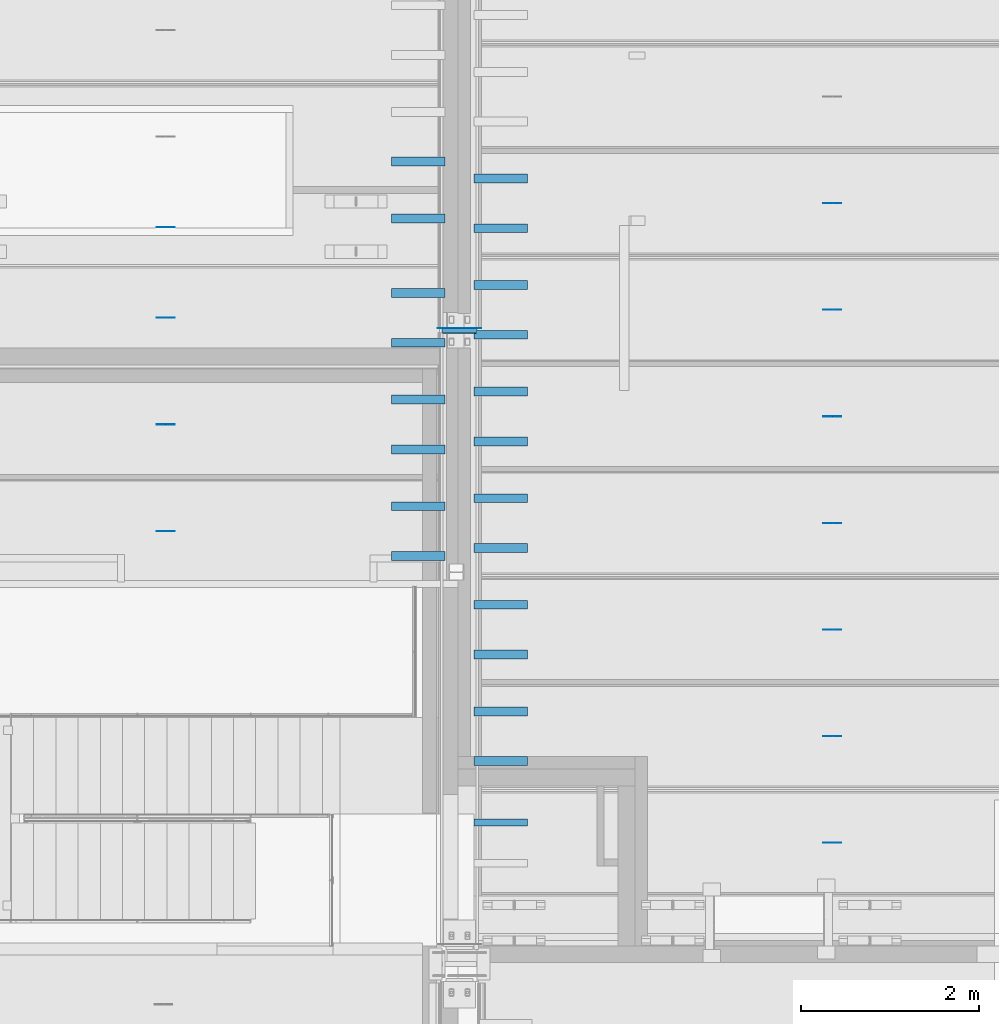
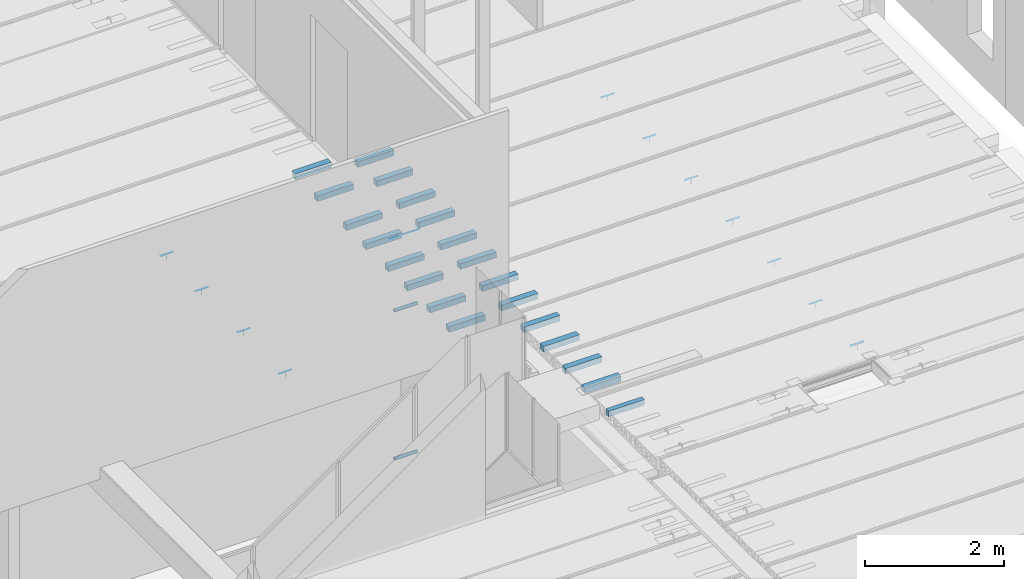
# One storey, part 19 of 230: 49 beams.
"""IFC4X3_ADD2 building model written with IfcOpenShell, lengths in millimetres."""

from ifc_helpers import new_model, si_unit, direction, frame, frame_2d, origin_with_axes, place, context, subcontext, project, spatial, rectangle, hollow_circle, extrude, material, element, save


model = new_model("IFC4X3_ADD2")

# Units and contexts
model_context = context("Model", 3, precision=1e-05, world=origin_with_axes(), true_north=direction((0.0, 1.0)))
body_context = subcontext(model_context, "Body", "Model", "MODEL_VIEW")
ifc_project = project(units=[si_unit("LENGTHUNIT", "METRE", prefix="MILLI"), si_unit("AREAUNIT", "SQUARE_METRE"), si_unit("VOLUMEUNIT", "CUBIC_METRE"), si_unit("PLANEANGLEUNIT", "RADIAN"), si_unit("TIMEUNIT", "SECOND"), si_unit("MASSUNIT", "GRAM")], contexts=[model_context])

# Site, building, storey
site_placement = place(None, origin_with_axes())
site = spatial("IfcSite", under=ifc_project, at=site_placement, Name="Site", CompositionType="ELEMENT")
building_placement = place(site_placement, origin_with_axes())
building = spatial("IfcBuilding", under=site, at=building_placement, Name="IFC Building Story")
storey_placement = place(building_placement, origin_with_axes())
storey = spatial("IfcBuildingStorey", under=building, at=storey_placement, Name="ETAGE 00 (0)", Elevation=0.0)

# Beams
ifc_material_1 = material(Name="STEEL/Accessory_invisible")
for number, where, z_axis, x_axis, name in (
    (1, (40731.189, 7840.0, 4150.0), (-1.0, 0.0, 0.0), (0.0, 1.0, 0.0), "ES7"),
    (2, (40731.189, 7280.0, 4150.0), (-1.0, 0.0, 0.0), (0.0, 1.0, 0.0), "ES7"),
):
    element("IfcBeam", number, at=place(storey_placement, frame(where, z_axis=z_axis, x_axis=x_axis)), inside=storey, material=ifc_material_1, Name=name, ObjectType="100*100", context=body_context, shape_type="SweptSolid", body=[
        extrude(rectangle(XDim=100.0, YDim=99.99999999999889, at=frame_2d((0.0, 5.95523630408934e-12), x_axis=(1.0, 0.0))), origin_with_axes(), (0.0, 0.0, 1.0), 600.0),
    ])
ifc_material_2 = material(Name="STEEL/Accessory_invisible 261")
beam_1_placement = place(storey_placement, frame((44164.189, 7560.0, 4049.9999909), z_axis=(-1.0, 0.0, 0.0), x_axis=(0.0, 0.0, -1.0)))
element("IfcBeam", 3, at=beam_1_placement, inside=storey, material=ifc_material_2, Name="ES6", ObjectType="1*1 2", context=body_context, shape_type="SweptSolid", body=[
    extrude(rectangle(XDim=100.0, YDim=0.9999999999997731, at=frame_2d((0.0, 5.95523630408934e-12), x_axis=(1.0, 0.0))), origin_with_axes(), (0.0, 0.0, 1.0), 1.0),
])
beam_2_placement = place(storey_placement, frame((44263.689, 7560.0, 4100.0), z_axis=(-1.0, 0.0, 0.0), x_axis=(0.0, 1.0, 0.0)))
element("IfcBeam", 4, at=beam_2_placement, inside=storey, material=ifc_material_2, Name="ES31", ObjectType="1*1 3", context=body_context, shape_type="SweptSolid", body=[
    extrude(rectangle(XDim=0.9999999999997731, YDim=0.9999999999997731, at=frame_2d((0.0, 5.95523630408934e-12), x_axis=(1.0, 0.0))), origin_with_axes(), (0.0, 0.0, 1.0), 199.9999999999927),
])
for number, where, z_axis, x_axis, name in (
    (5, (40731.189, 6640.0, 4150.0), (-1.0, 0.0, 0.0), (0.0, 1.0, 0.0), "ES7"),
    (6, (40731.189, 6080.0, 4150.0), (-1.0, 0.0, 0.0), (0.0, 1.0, 0.0), "ES7"),
):
    element("IfcBeam", number, at=place(storey_placement, frame(where, z_axis=z_axis, x_axis=x_axis)), inside=storey, material=ifc_material_1, Name=name, ObjectType="100*100", context=body_context, shape_type="SweptSolid", body=[
        extrude(rectangle(XDim=100.0, YDim=99.99999999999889, at=frame_2d((0.0, 5.95523630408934e-12), x_axis=(1.0, 0.0))), origin_with_axes(), (0.0, 0.0, 1.0), 600.0),
    ])
beam_3_placement = place(storey_placement, frame((44164.189, 6360.0, 4049.9999909), z_axis=(-1.0, 0.0, 0.0), x_axis=(0.0, 0.0, -1.0)))
element("IfcBeam", 7, at=beam_3_placement, inside=storey, material=ifc_material_2, Name="ES6", ObjectType="1*1 2", context=body_context, shape_type="SweptSolid", body=[
    extrude(rectangle(XDim=100.0, YDim=0.9999999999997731, at=frame_2d((0.0, 5.95523630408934e-12), x_axis=(1.0, 0.0))), origin_with_axes(), (0.0, 0.0, 1.0), 1.0),
])
beam_4_placement = place(storey_placement, frame((44263.689, 6360.0, 4100.0), z_axis=(-1.0, 0.0, 0.0), x_axis=(0.0, 1.0, 0.0)))
element("IfcBeam", 8, at=beam_4_placement, inside=storey, material=ifc_material_2, Name="ES31", ObjectType="1*1 3", context=body_context, shape_type="SweptSolid", body=[
    extrude(rectangle(XDim=0.9999999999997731, YDim=0.9999999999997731, at=frame_2d((0.0, 5.95523630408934e-12), x_axis=(1.0, 0.0))), origin_with_axes(), (0.0, 0.0, 1.0), 199.9999999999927),
])
for number, where, z_axis, x_axis, name in (
    (9, (40731.189, 5440.0, 4150.0), (-1.0, 0.0, 0.0), (0.0, 1.0, 0.0), "ES7"),
    (10, (40731.189, 4880.0, 4150.0), (-1.0, 0.0, 0.0), (0.0, 1.0, 0.0), "ES7"),
):
    element("IfcBeam", number, at=place(storey_placement, frame(where, z_axis=z_axis, x_axis=x_axis)), inside=storey, material=ifc_material_1, Name=name, ObjectType="100*100", context=body_context, shape_type="SweptSolid", body=[
        extrude(rectangle(XDim=100.0, YDim=99.99999999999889, at=frame_2d((0.0, 5.95523630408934e-12), x_axis=(1.0, 0.0))), origin_with_axes(), (0.0, 0.0, 1.0), 600.0),
    ])
beam_5_placement = place(storey_placement, frame((44164.189, 5160.0, 4049.9999909), z_axis=(-1.0, 0.0, 0.0), x_axis=(0.0, 0.0, -1.0)))
element("IfcBeam", 11, at=beam_5_placement, inside=storey, material=ifc_material_2, Name="ES6", ObjectType="1*1 2", context=body_context, shape_type="SweptSolid", body=[
    extrude(rectangle(XDim=100.0, YDim=0.9999999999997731, at=frame_2d((0.0, 5.95523630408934e-12), x_axis=(1.0, 0.0))), origin_with_axes(), (0.0, 0.0, 1.0), 1.0),
])
beam_6_placement = place(storey_placement, frame((44263.689, 5160.0, 4100.0), z_axis=(-1.0, 0.0, 0.0), x_axis=(0.0, 1.0, 0.0)))
element("IfcBeam", 12, at=beam_6_placement, inside=storey, material=ifc_material_2, Name="ES31", ObjectType="1*1 3", context=body_context, shape_type="SweptSolid", body=[
    extrude(rectangle(XDim=0.9999999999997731, YDim=0.9999999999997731, at=frame_2d((0.0, 5.95523630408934e-12), x_axis=(1.0, 0.0))), origin_with_axes(), (0.0, 0.0, 1.0), 199.9999999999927),
])
for number, where, z_axis, x_axis, name in (
    (13, (40731.189, 4240.0, 4150.0), (-1.0, 0.0, 0.0), (0.0, 1.0, 0.0), "ES7"),
    (14, (40731.189, 3680.0, 4150.0), (-1.0, 0.0, 0.0), (0.0, 1.0, 0.0), "ES7"),
):
    element("IfcBeam", number, at=place(storey_placement, frame(where, z_axis=z_axis, x_axis=x_axis)), inside=storey, material=ifc_material_1, Name=name, ObjectType="100*100", context=body_context, shape_type="SweptSolid", body=[
        extrude(rectangle(XDim=100.0, YDim=99.99999999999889, at=frame_2d((0.0, 5.95523630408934e-12), x_axis=(1.0, 0.0))), origin_with_axes(), (0.0, 0.0, 1.0), 600.0),
    ])
beam_7_placement = place(storey_placement, frame((44164.189, 3960.0, 4049.9999909), z_axis=(-1.0, 0.0, 0.0), x_axis=(0.0, 0.0, -1.0)))
element("IfcBeam", 15, at=beam_7_placement, inside=storey, material=ifc_material_2, Name="ES6", ObjectType="1*1 2", context=body_context, shape_type="SweptSolid", body=[
    extrude(rectangle(XDim=100.0, YDim=0.9999999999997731, at=frame_2d((0.0, 5.95523630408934e-12), x_axis=(1.0, 0.0))), origin_with_axes(), (0.0, 0.0, 1.0), 1.0),
])
beam_8_placement = place(storey_placement, frame((44263.689, 3960.0, 4100.0), z_axis=(-1.0, 0.0, 0.0), x_axis=(0.0, 1.0, 0.0)))
element("IfcBeam", 16, at=beam_8_placement, inside=storey, material=ifc_material_2, Name="ES31", ObjectType="1*1 3", context=body_context, shape_type="SweptSolid", body=[
    extrude(rectangle(XDim=0.9999999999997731, YDim=0.9999999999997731, at=frame_2d((0.0, 5.95523630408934e-12), x_axis=(1.0, 0.0))), origin_with_axes(), (0.0, 0.0, 1.0), 199.9999999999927),
])
for number, where, z_axis, x_axis, name in (
    (17, (40731.189, 3040.0, 4150.0), (-1.0, 0.0, 0.0), (0.0, 1.0, 0.0), "ES7"),
    (18, (40731.189, 2480.0, 4150.0), (-1.0, 0.0, 0.0), (0.0, 1.0, 0.0), "ES7"),
):
    element("IfcBeam", number, at=place(storey_placement, frame(where, z_axis=z_axis, x_axis=x_axis)), inside=storey, material=ifc_material_1, Name=name, ObjectType="100*100", context=body_context, shape_type="SweptSolid", body=[
        extrude(rectangle(XDim=100.0, YDim=99.99999999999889, at=frame_2d((0.0, 5.95523630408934e-12), x_axis=(1.0, 0.0))), origin_with_axes(), (0.0, 0.0, 1.0), 600.0),
    ])
beam_9_placement = place(storey_placement, frame((44164.189, 2760.0, 4049.9999909), z_axis=(-1.0, 0.0, 0.0), x_axis=(0.0, 0.0, -1.0)))
element("IfcBeam", 19, at=beam_9_placement, inside=storey, material=ifc_material_2, Name="ES6", ObjectType="1*1 2", context=body_context, shape_type="SweptSolid", body=[
    extrude(rectangle(XDim=100.0, YDim=0.9999999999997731, at=frame_2d((0.0, 5.95523630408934e-12), x_axis=(1.0, 0.0))), origin_with_axes(), (0.0, 0.0, 1.0), 1.0),
])
beam_10_placement = place(storey_placement, frame((44263.689, 2760.0, 4100.0), z_axis=(-1.0, 0.0, 0.0), x_axis=(0.0, 1.0, 0.0)))
element("IfcBeam", 20, at=beam_10_placement, inside=storey, material=ifc_material_2, Name="ES31", ObjectType="1*1 3", context=body_context, shape_type="SweptSolid", body=[
    extrude(rectangle(XDim=0.9999999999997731, YDim=0.9999999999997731, at=frame_2d((0.0, 5.95523630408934e-12), x_axis=(1.0, 0.0))), origin_with_axes(), (0.0, 0.0, 1.0), 199.9999999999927),
])
beam_11_placement = place(storey_placement, frame((40731.189, 1790.0, 4150.0), z_axis=(-1.0, 0.0, 0.0), x_axis=(0.0, 0.0, 1.0)))
element("IfcBeam", 21, at=beam_11_placement, inside=storey, material=ifc_material_1, Name="ES7", ObjectType="100*80", context=body_context, shape_type="SweptSolid", body=[
    extrude(rectangle(XDim=100.0, YDim=80.0, at=frame_2d((0.0, 5.95523630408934e-12), x_axis=(1.0, 0.0))), origin_with_axes(), (0.0, 0.0, 1.0), 600.0),
])
beam_12_placement = place(storey_placement, frame((44163.939, 1560.0, 4049.9999909), z_axis=(-1.0, 0.0, 0.0), x_axis=(0.0, 0.0, -1.0)))
element("IfcBeam", 22, at=beam_12_placement, inside=storey, material=ifc_material_2, Name="ES6", ObjectType="1*1 2", context=body_context, shape_type="SweptSolid", body=[
    extrude(rectangle(XDim=100.0, YDim=0.9999999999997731, at=frame_2d((0.0, 5.95523630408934e-12), x_axis=(1.0, 0.0))), origin_with_axes(), (0.0, 0.0, 1.0), 1.0),
])
for number, where, z_axis, x_axis, name in (
    (23, (44263.439, 1560.0, 4100.0), (-1.0, 0.0, 0.0), (0.0, 1.0, 0.0), "ES31"),
    (24, (44263.439, 1560.0, 4090.0), (-1.0, 0.0, 0.0), (0.0, 1.0, 0.0), "ES31"),
):
    element("IfcBeam", number, at=place(storey_placement, frame(where, z_axis=z_axis, x_axis=x_axis)), inside=storey, material=ifc_material_2, Name=name, ObjectType="1*1 3", context=body_context, shape_type="SweptSolid", body=[
        extrude(rectangle(XDim=0.9999999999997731, YDim=0.9999999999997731, at=frame_2d((0.0, 5.95523630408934e-12), x_axis=(1.0, 0.0))), origin_with_axes(), (0.0, 0.0, 1.0), 200.0),
    ])
for number, where, z_axis, x_axis, name in (
    (25, (40731.189, 9040.0, 4150.0), (-1.0, 0.0, 0.0), (0.0, 1.0, 0.0), "ES7"),
    (26, (40731.189, 8480.0, 4150.0), (-1.0, 0.0, 0.0), (0.0, 1.0, 0.0), "ES7"),
):
    element("IfcBeam", number, at=place(storey_placement, frame(where, z_axis=z_axis, x_axis=x_axis)), inside=storey, material=ifc_material_1, Name=name, ObjectType="100*100", context=body_context, shape_type="SweptSolid", body=[
        extrude(rectangle(XDim=100.0, YDim=99.99999999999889, at=frame_2d((0.0, 5.95523630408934e-12), x_axis=(1.0, 0.0))), origin_with_axes(), (0.0, 0.0, 1.0), 600.0),
    ])
beam_13_placement = place(storey_placement, frame((44164.189, 8760.0, 4049.9999909), z_axis=(-1.0, 0.0, 0.0), x_axis=(0.0, 0.0, -1.0)))
element("IfcBeam", 27, at=beam_13_placement, inside=storey, material=ifc_material_2, Name="ES6", ObjectType="1*1 2", context=body_context, shape_type="SweptSolid", body=[
    extrude(rectangle(XDim=100.0, YDim=0.9999999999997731, at=frame_2d((0.0, 5.95523630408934e-12), x_axis=(1.0, 0.0))), origin_with_axes(), (0.0, 0.0, 1.0), 1.0),
])
beam_14_placement = place(storey_placement, frame((44263.689, 8760.0, 4100.0), z_axis=(-1.0, 0.0, 0.0), x_axis=(0.0, 1.0, 0.0)))
element("IfcBeam", 28, at=beam_14_placement, inside=storey, material=ifc_material_2, Name="ES31", ObjectType="1*1 3", context=body_context, shape_type="SweptSolid", body=[
    extrude(rectangle(XDim=0.9999999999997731, YDim=0.9999999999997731, at=frame_2d((0.0, 5.95523630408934e-12), x_axis=(1.0, 0.0))), origin_with_axes(), (0.0, 0.0, 1.0), 199.9999999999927),
])
ifc_material_3 = material(Name="STEEL/Accessory_PVC")
for number, where, z_axis, x_axis, name in (
    (29, (39774.1889999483, 7324.838, 110.0), (1.0, 0.0, 0.0), (0.0, 0.0, -1.0), "PS13"),
    (30, (39774.1890000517, 7324.838, 2720.0), (1.0, 0.0, 0.0), (0.0, 0.0, -1.0), "PS13"),
):
    element("IfcBeam", number, at=place(storey_placement, frame(where, z_axis=z_axis, x_axis=x_axis)), inside=storey, material=ifc_material_3, Name=name, ObjectType="O56*3", context=body_context, shape_type="SweptSolid", body=[
        extrude(hollow_circle(Radius=28.0, WallThickness=3.0, at=frame_2d((0.0, 5.95523630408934e-12), x_axis=(1.0, 0.0))), origin_with_axes(), (0.0, 0.0, 1.0), 384.0),
    ])
for number, where, z_axis, x_axis, name in (
    (31, (39801.189, 9230.000915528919, 4150.0), (-1.0, 0.0, 0.0), (0.0, -1.0, 0.0), "ES7"),
    (32, (39801.189, 7750.000915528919, 4150.0), (-1.0, 0.0, 0.0), (0.0, -1.0, 0.0), "ES7"),
    (33, (39801.189, 7190.000915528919, 4150.0), (-1.0, 0.0, 0.0), (0.0, -1.0, 0.0), "ES7"),
):
    element("IfcBeam", number, at=place(storey_placement, frame(where, z_axis=z_axis, x_axis=x_axis)), inside=storey, material=ifc_material_1, Name=name, ObjectType="100*100", context=body_context, shape_type="SweptSolid", body=[
        extrude(rectangle(XDim=100.0, YDim=99.99999999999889, at=frame_2d((0.0, 5.95523630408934e-12), x_axis=(1.0, 0.0))), origin_with_axes(), (0.0, 0.0, 1.0), 600.0),
    ])
beam_15_placement = place(storey_placement, frame((36659.189, 7470.000915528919, 4049.9999909), z_axis=(-1.0, 0.0, 0.0), x_axis=(0.0, 0.0, -1.0)))
element("IfcBeam", 34, at=beam_15_placement, inside=storey, material=ifc_material_2, Name="ES6", ObjectType="1*1 2", context=body_context, shape_type="SweptSolid", body=[
    extrude(rectangle(XDim=100.0, YDim=0.9999999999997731, at=frame_2d((0.0, 5.95523630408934e-12), x_axis=(1.0, 0.0))), origin_with_axes(), (0.0, 0.0, 1.0), 1.0),
])
beam_16_placement = place(storey_placement, frame((36758.689, 7470.000915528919, 4100.0), z_axis=(-1.0, 0.0, 0.0), x_axis=(0.0, 1.0, 0.0)))
element("IfcBeam", 35, at=beam_16_placement, inside=storey, material=ifc_material_2, Name="ES31", ObjectType="1*1 3", context=body_context, shape_type="SweptSolid", body=[
    extrude(rectangle(XDim=0.9999999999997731, YDim=0.9999999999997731, at=frame_2d((0.0, 5.95523630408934e-12), x_axis=(1.0, 0.0))), origin_with_axes(), (0.0, 0.0, 1.0), 200.0),
])
for number, where, z_axis, x_axis, name in (
    (36, (39801.189, 6550.000915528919, 4150.0), (-1.0, 0.0, 0.0), (0.0, -1.0, 0.0), "ES7"),
    (37, (39801.189, 5990.000915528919, 4150.0), (-1.0, 0.0, 0.0), (0.0, -1.0, 0.0), "ES7"),
):
    element("IfcBeam", number, at=place(storey_placement, frame(where, z_axis=z_axis, x_axis=x_axis)), inside=storey, material=ifc_material_1, Name=name, ObjectType="100*100", context=body_context, shape_type="SweptSolid", body=[
        extrude(rectangle(XDim=100.0, YDim=99.99999999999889, at=frame_2d((0.0, 5.95523630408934e-12), x_axis=(1.0, 0.0))), origin_with_axes(), (0.0, 0.0, 1.0), 600.0),
    ])
beam_17_placement = place(storey_placement, frame((36659.189, 6270.000915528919, 4049.9999909), z_axis=(-1.0, 0.0, 0.0), x_axis=(0.0, 0.0, -1.0)))
element("IfcBeam", 38, at=beam_17_placement, inside=storey, material=ifc_material_2, Name="ES6", ObjectType="1*1 2", context=body_context, shape_type="SweptSolid", body=[
    extrude(rectangle(XDim=100.0, YDim=0.9999999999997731, at=frame_2d((0.0, 5.95523630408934e-12), x_axis=(1.0, 0.0))), origin_with_axes(), (0.0, 0.0, 1.0), 1.0),
])
beam_18_placement = place(storey_placement, frame((36758.689, 6270.000915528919, 4100.0), z_axis=(-1.0, 0.0, 0.0), x_axis=(0.0, 1.0, 0.0)))
element("IfcBeam", 39, at=beam_18_placement, inside=storey, material=ifc_material_2, Name="ES31", ObjectType="1*1 3", context=body_context, shape_type="SweptSolid", body=[
    extrude(rectangle(XDim=0.9999999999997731, YDim=0.9999999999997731, at=frame_2d((0.0, 5.95523630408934e-12), x_axis=(1.0, 0.0))), origin_with_axes(), (0.0, 0.0, 1.0), 200.0),
])
for number, where, z_axis, x_axis, name in (
    (40, (39801.189, 5350.000915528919, 4150.0), (-1.0, 0.0, 0.0), (0.0, -1.0, 0.0), "ES7"),
    (41, (39801.189, 4790.00091552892, 4150.0), (-1.0, 0.0, 0.0), (0.0, -1.0, 0.0), "ES7"),
):
    element("IfcBeam", number, at=place(storey_placement, frame(where, z_axis=z_axis, x_axis=x_axis)), inside=storey, material=ifc_material_1, Name=name, ObjectType="100*100", context=body_context, shape_type="SweptSolid", body=[
        extrude(rectangle(XDim=100.0, YDim=99.99999999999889, at=frame_2d((0.0, 5.95523630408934e-12), x_axis=(1.0, 0.0))), origin_with_axes(), (0.0, 0.0, 1.0), 600.0),
    ])
beam_19_placement = place(storey_placement, frame((36659.189, 5070.00091552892, 4049.9999909), z_axis=(-1.0, 0.0, 0.0), x_axis=(0.0, 0.0, -1.0)))
element("IfcBeam", 42, at=beam_19_placement, inside=storey, material=ifc_material_2, Name="ES6", ObjectType="1*1 2", context=body_context, shape_type="SweptSolid", body=[
    extrude(rectangle(XDim=100.0, YDim=0.9999999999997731, at=frame_2d((0.0, 5.95523630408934e-12), x_axis=(1.0, 0.0))), origin_with_axes(), (0.0, 0.0, 1.0), 1.0),
])
beam_20_placement = place(storey_placement, frame((36758.689, 5070.00091552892, 4100.0), z_axis=(-1.0, 0.0, 0.0), x_axis=(0.0, 1.0, 0.0)))
element("IfcBeam", 43, at=beam_20_placement, inside=storey, material=ifc_material_2, Name="ES31", ObjectType="1*1 3", context=body_context, shape_type="SweptSolid", body=[
    extrude(rectangle(XDim=0.9999999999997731, YDim=0.9999999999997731, at=frame_2d((0.0, 5.95523630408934e-12), x_axis=(1.0, 0.0))), origin_with_axes(), (0.0, 0.0, 1.0), 200.0),
])
beam_21_placement = place(storey_placement, frame((39801.189, 8590.00089702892, 4150.0), z_axis=(-1.0, 0.0, 0.0), x_axis=(0.0, -1.0, 0.0)))
element("IfcBeam", 44, at=beam_21_placement, inside=storey, material=ifc_material_1, Name="ES7", ObjectType="100*100", context=body_context, shape_type="SweptSolid", body=[
    extrude(rectangle(XDim=100.0, YDim=99.99999999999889, at=frame_2d((0.0, 5.95523630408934e-12), x_axis=(1.0, 0.0))), origin_with_axes(), (0.0, 0.0, 1.0), 600.0),
])
beam_22_placement = place(storey_placement, frame((36659.189, 8490.00090627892, 4049.9999909), z_axis=(-1.0, 0.0, 0.0), x_axis=(0.0, 0.0, -1.0)))
element("IfcBeam", 45, at=beam_22_placement, inside=storey, material=ifc_material_2, Name="ES6", ObjectType="1*1 2", context=body_context, shape_type="SweptSolid", body=[
    extrude(rectangle(XDim=100.0, YDim=0.9999999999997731, at=frame_2d((0.0, 5.95523630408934e-12), x_axis=(1.0, 0.0))), origin_with_axes(), (0.0, 0.0, 1.0), 1.0),
])
beam_23_placement = place(storey_placement, frame((36758.689, 8490.00090627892, 4100.0), z_axis=(-1.0, 0.0, 0.0), x_axis=(0.0, 1.0, 0.0)))
element("IfcBeam", 46, at=beam_23_placement, inside=storey, material=ifc_material_2, Name="ES31", ObjectType="1*1 3", context=body_context, shape_type="SweptSolid", body=[
    extrude(rectangle(XDim=0.9999999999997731, YDim=0.9999999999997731, at=frame_2d((0.0, 5.95523630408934e-12), x_axis=(1.0, 0.0))), origin_with_axes(), (0.0, 0.0, 1.0), 200.0),
])
for number, where, z_axis, x_axis, name in (
    (47, (39861.089, 7354.83800000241, 3984.49999999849), (-1.0, 0.0, 0.0), (0.0, 1.0, 0.0), "ZW3"),
    (48, (40211.18900000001, 7354.83800000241, 3984.49999999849), (-1.0, 0.0, 0.0), (0.0, 1.0, 0.0), "ZW3"),
):
    element("IfcBeam", number, at=place(storey_placement, frame(where, z_axis=z_axis, x_axis=x_axis)), inside=storey, material=ifc_material_1, Name=name, ObjectType="1*1 3", context=body_context, shape_type="SweptSolid", body=[
        extrude(rectangle(XDim=0.9999999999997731, YDim=0.9999999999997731, at=frame_2d((0.0, 5.95523630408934e-12), x_axis=(1.0, 0.0))), origin_with_axes(), (0.0, 0.0, 1.0), 139.9000000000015),
    ])
beam_24_placement = place(storey_placement, frame((40071.18900000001, 7354.838, 3984.5), z_axis=(-1.0, 0.0, 0.0), x_axis=(0.0, 1.0, 0.0)))
element("IfcBeam", 49, at=beam_24_placement, inside=storey, material=ifc_material_1, Name="ZW3", ObjectType="1*1 3", context=body_context, shape_type="SweptSolid", body=[
    extrude(rectangle(XDim=0.9999999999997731, YDim=0.9999999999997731, at=frame_2d((0.0, 5.95523630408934e-12), x_axis=(1.0, 0.0))), origin_with_axes(), (0.0, 0.0, 1.0), 210.0000000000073),
])

save(model, "model.ifc")
